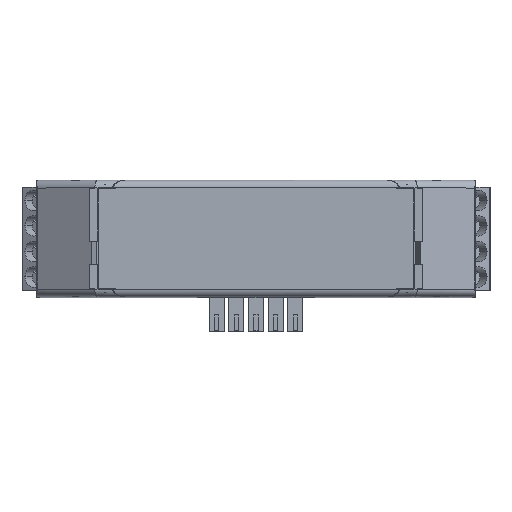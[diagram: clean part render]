
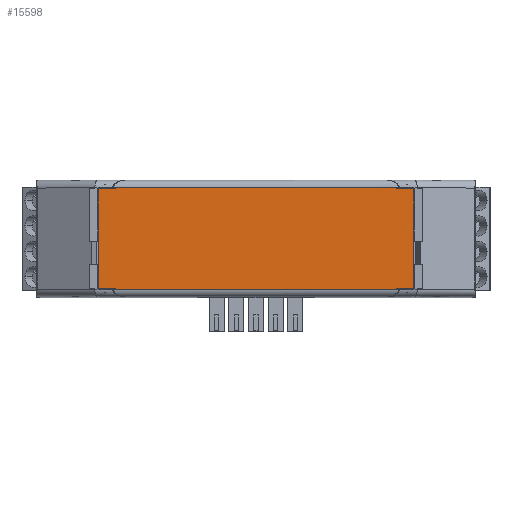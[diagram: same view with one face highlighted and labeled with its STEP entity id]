
A CAD part, top view. The second image highlights one B-rep face of the part: STEP entity #15598.
In plain terms, the highlighted planar face has unit normal (0, 0, 1).
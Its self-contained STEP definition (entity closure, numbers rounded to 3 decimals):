
#15598=ADVANCED_FACE('',(#30775),#30776,.T.);
#30775=FACE_OUTER_BOUND('',#48742,.T.);
#30776=PLANE('',#48743);
#48742=EDGE_LOOP('',(#74650,#74651,#74652,#74653,#74654,#74655,#74656,#74657,#74658,#74659,#74660,#74661));
#48743=AXIS2_PLACEMENT_3D('',#74662,#74663,#74664);
#74650=ORIENTED_EDGE('',*,*,#85561,.F.);
#74651=ORIENTED_EDGE('',*,*,#85562,.F.);
#74652=ORIENTED_EDGE('',*,*,#85563,.T.);
#74653=ORIENTED_EDGE('',*,*,#85524,.T.);
#74654=ORIENTED_EDGE('',*,*,#85564,.T.);
#74655=ORIENTED_EDGE('',*,*,#85565,.T.);
#74656=ORIENTED_EDGE('',*,*,#85566,.F.);
#74657=ORIENTED_EDGE('',*,*,#85552,.T.);
#74658=ORIENTED_EDGE('',*,*,#85429,.T.);
#74659=ORIENTED_EDGE('',*,*,#85567,.F.);
#74660=ORIENTED_EDGE('',*,*,#85568,.T.);
#74661=ORIENTED_EDGE('',*,*,#85569,.F.);
#74662=CARTESIAN_POINT('',(37.2,3.028,84.462));
#74663=DIRECTION('',(0.,0.,1.0));
#74664=DIRECTION('',(-1.0,0.,0.0));
#85429=EDGE_CURVE('',#94990,#94988,#94991,.T.);
#85524=EDGE_CURVE('',#95142,#95143,#95144,.T.);
#85552=EDGE_CURVE('',#95174,#94990,#95182,.T.);
#85561=EDGE_CURVE('',#95193,#95194,#95195,.T.);
#85562=EDGE_CURVE('',#95196,#95193,#95197,.T.);
#85563=EDGE_CURVE('',#95196,#95142,#95198,.T.);
#85564=EDGE_CURVE('',#95143,#95199,#95200,.T.);
#85565=EDGE_CURVE('',#95199,#95201,#95202,.T.);
#85566=EDGE_CURVE('',#95174,#95201,#95203,.T.);
#85567=EDGE_CURVE('',#95204,#94988,#95205,.T.);
#85568=EDGE_CURVE('',#95204,#95206,#95207,.T.);
#85569=EDGE_CURVE('',#95194,#95206,#95208,.T.);
#94988=VERTEX_POINT('',#108346);
#94990=VERTEX_POINT('',#108348);
#94991=LINE('',#108349,#108350);
#95142=VERTEX_POINT('',#108578);
#95143=VERTEX_POINT('',#108579);
#95144=LINE('',#108580,#108581);
#95174=VERTEX_POINT('',#108622);
#95182=LINE('',#108633,#108634);
#95193=VERTEX_POINT('',#108645);
#95194=VERTEX_POINT('',#108646);
#95195=LINE('',#108647,#108648);
#95196=VERTEX_POINT('',#108649);
#95197=LINE('',#108650,#108651);
#95198=LINE('',#108652,#108653);
#95199=VERTEX_POINT('',#108654);
#95200=LINE('',#108655,#108656);
#95201=VERTEX_POINT('',#108657);
#95202=LINE('',#108658,#108659);
#95203=LINE('',#108660,#108661);
#95204=VERTEX_POINT('',#108662);
#95205=LINE('',#108663,#108664);
#95206=VERTEX_POINT('',#108665);
#95207=LINE('',#108666,#108667);
#95208=LINE('',#108668,#108669);
#108346=CARTESIAN_POINT('',(-27.6,1.5,84.462));
#108348=CARTESIAN_POINT('',(-27.6,1.7,84.462));
#108349=CARTESIAN_POINT('',(-27.6,22.6,84.462));
#108350=VECTOR('',#117890,1.0);
#108578=CARTESIAN_POINT('',(27.6,21.1,84.462));
#108579=CARTESIAN_POINT('',(-27.6,21.1,84.462));
#108580=CARTESIAN_POINT('',(46.78,21.1,84.462));
#108581=VECTOR('',#117968,1.0);
#108622=CARTESIAN_POINT('',(-30.5,1.7,84.462));
#108633=CARTESIAN_POINT('',(32.78,1.7,84.462));
#108634=VECTOR('',#117995,1.0);
#108645=CARTESIAN_POINT('',(30.5,20.9,84.462));
#108646=CARTESIAN_POINT('',(30.5,1.7,84.462));
#108647=CARTESIAN_POINT('',(30.5,22.6,84.462));
#108648=VECTOR('',#118005,1.0);
#108649=CARTESIAN_POINT('',(27.6,20.9,84.462));
#108650=CARTESIAN_POINT('',(32.78,20.9,84.462));
#108651=VECTOR('',#118006,1.0);
#108652=CARTESIAN_POINT('',(27.6,22.6,84.462));
#108653=VECTOR('',#118007,1.0);
#108654=CARTESIAN_POINT('',(-27.6,20.9,84.462));
#108655=CARTESIAN_POINT('',(-27.6,22.6,84.462));
#108656=VECTOR('',#118008,1.0);
#108657=CARTESIAN_POINT('',(-30.5,20.9,84.462));
#108658=CARTESIAN_POINT('',(32.78,20.9,84.462));
#108659=VECTOR('',#118009,1.0);
#108660=CARTESIAN_POINT('',(-30.5,22.6,84.462));
#108661=VECTOR('',#118010,1.0);
#108662=CARTESIAN_POINT('',(27.6,1.5,84.462));
#108663=CARTESIAN_POINT('',(46.78,1.5,84.462));
#108664=VECTOR('',#118011,1.0);
#108665=CARTESIAN_POINT('',(27.6,1.7,84.462));
#108666=CARTESIAN_POINT('',(27.6,22.6,84.462));
#108667=VECTOR('',#118012,1.0);
#108668=CARTESIAN_POINT('',(32.78,1.7,84.462));
#108669=VECTOR('',#118013,1.0);
#117890=DIRECTION('',(0.0,-1.0,0.0));
#117968=DIRECTION('',(-1.0,0.0,0.));
#117995=DIRECTION('',(1.0,0.0,0.));
#118005=DIRECTION('',(0.0,-1.0,0.0));
#118006=DIRECTION('',(1.0,0.0,0.));
#118007=DIRECTION('',(0.0,1.0,0.0));
#118008=DIRECTION('',(0.0,-1.0,0.0));
#118009=DIRECTION('',(-1.0,0.0,0.));
#118010=DIRECTION('',(0.0,1.0,0.0));
#118011=DIRECTION('',(-1.0,0.0,0.));
#118012=DIRECTION('',(0.0,1.0,0.0));
#118013=DIRECTION('',(-1.0,0.0,0.));
